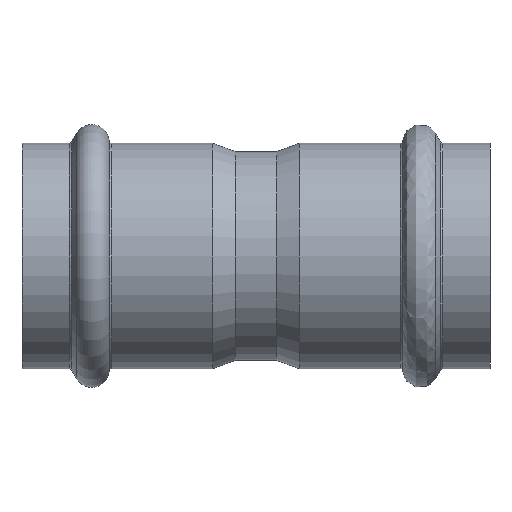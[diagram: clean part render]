
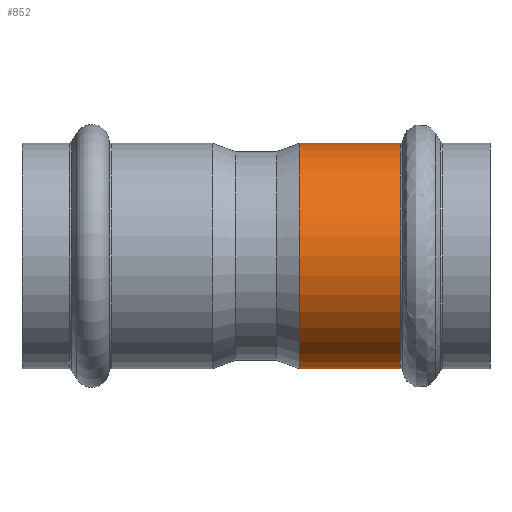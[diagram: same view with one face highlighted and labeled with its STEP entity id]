
A CAD part, front view. The second image highlights one B-rep face of the part: STEP entity #852.
In plain terms, the highlighted free-form (B-spline) face has degree [1, 2] with [2, 9] control points.
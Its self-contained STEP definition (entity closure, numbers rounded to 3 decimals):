
#789=CARTESIAN_POINT('',(29.008,22.65,0.));
#790=VERTEX_POINT('',#789);
#791=CARTESIAN_POINT('',(29.008,0.,0.0));
#792=DIRECTION('',(1.0,0.0,0.0));
#793=DIRECTION('',(0.0,-1.0,0.0));
#794=AXIS2_PLACEMENT_3D('',#791,#792,#793);
#795=CIRCLE('',#794,22.65);
#796=EDGE_CURVE('',#790,#790,#795,.T.);
#812=CARTESIAN_POINT('',(29.008,-22.65,0.));
#813=CARTESIAN_POINT('',(8.736,-22.65,0.));
#814=CARTESIAN_POINT('',(29.008,-22.65,-22.65));
#815=CARTESIAN_POINT('',(8.736,-22.65,-22.65));
#816=CARTESIAN_POINT('',(29.008,0.,-22.65));
#817=CARTESIAN_POINT('',(8.736,0.,-22.65));
#818=CARTESIAN_POINT('',(29.008,22.65,-22.65));
#819=CARTESIAN_POINT('',(8.736,22.65,-22.65));
#820=CARTESIAN_POINT('',(29.008,22.65,0.));
#821=CARTESIAN_POINT('',(8.736,22.65,0.));
#822=CARTESIAN_POINT('',(29.008,22.65,22.65));
#823=CARTESIAN_POINT('',(8.736,22.65,22.65));
#824=CARTESIAN_POINT('',(29.008,0.,22.65));
#825=CARTESIAN_POINT('',(8.736,0.,22.65));
#826=CARTESIAN_POINT('',(29.008,-22.65,22.65));
#827=CARTESIAN_POINT('',(8.736,-22.65,22.65));
#828=CARTESIAN_POINT('',(29.008,-22.65,0.));
#829=CARTESIAN_POINT('',(8.736,-22.65,0.));
#837=(BOUNDED_SURFACE()B_SPLINE_SURFACE(1,2,((#812,#814,#816,#818,#820,#822,#824,#826,#828),(#813,#815,#817,#819,#821,#823,#825,#827,#829)),.UNSPECIFIED.,.F.,.T.,.U.)B_SPLINE_SURFACE_WITH_KNOTS((2,2),(3,2,2,2,3),(-0.436,0.459),(0.0,35.579,71.157,106.736,142.314),.UNSPECIFIED.)GEOMETRIC_REPRESENTATION_ITEM()RATIONAL_B_SPLINE_SURFACE(((1.0,0.707,1.0,0.707,1.0,0.707,1.0,0.707,1.0),(1.0,0.707,1.0,0.707,1.0,0.707,1.0,0.707,1.0)))REPRESENTATION_ITEM('')SURFACE());
#838=CARTESIAN_POINT('',(8.736,22.65,0.0));
#839=VERTEX_POINT('',#838);
#840=CARTESIAN_POINT('',(8.736,0.,0.0));
#841=DIRECTION('',(1.0,0.0,0.0));
#842=DIRECTION('',(0.0,1.0,0.0));
#843=AXIS2_PLACEMENT_3D('',#840,#841,#842);
#844=CIRCLE('',#843,22.65);
#845=EDGE_CURVE('',#839,#839,#844,.T.);
#846=ORIENTED_EDGE('',*,*,#845,.T.);
#847=EDGE_LOOP('',(#846));
#848=FACE_OUTER_BOUND('',#847,.T.);
#849=ORIENTED_EDGE('',*,*,#796,.F.);
#850=EDGE_LOOP('',(#849));
#851=FACE_BOUND('',#850,.T.);
#852=ADVANCED_FACE('',(#848,#851),#837,.T.);
